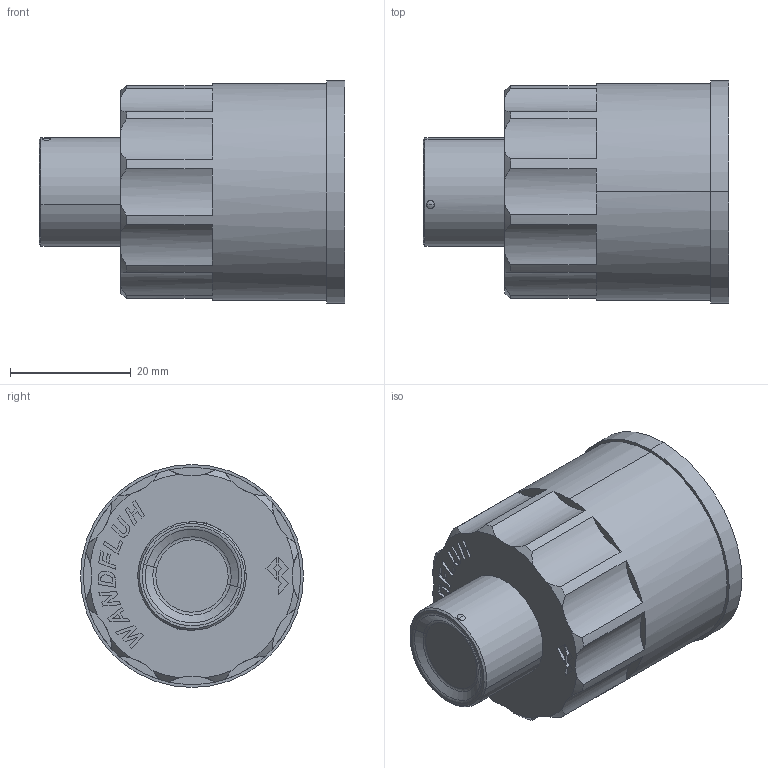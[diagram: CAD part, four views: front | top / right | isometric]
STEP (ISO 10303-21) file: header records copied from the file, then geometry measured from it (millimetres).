
FILE_DESCRIPTION (( 'STEP AP214' ), '1' );
FILE_NAME ('HF1.STEP', '2015-10-22T07:41:07', ( '' ), ( '' ), 'SwSTEP 2.0', 'SolidWorks 2014', '' );
FILE_SCHEMA (( 'AUTOMOTIVE_DESIGN' ));
Length unit declared in the file: millimetre
Products named in the file (2): HF1
Bounding box: 50.7 x 37 x 37 mm (x, y, z)
Volume: 27002.3 mm3; surface area: 11001.6 mm2
Topology: 3 solids, 3 shells, 226 faces, 575 edges, 375 vertices
Faces by surface type: plane 127, cylinder 35, cone 26, bspline 16, torus 14, sphere 8
Entity records: 10202 total; most frequent: CARTESIAN_POINT 2200, ORIENTED_EDGE 1146, DIRECTION 1097, EDGE_CURVE 573, VERTEX_POINT 375, AXIS2_PLACEMENT_3D 372, VECTOR 353, LINE 353
